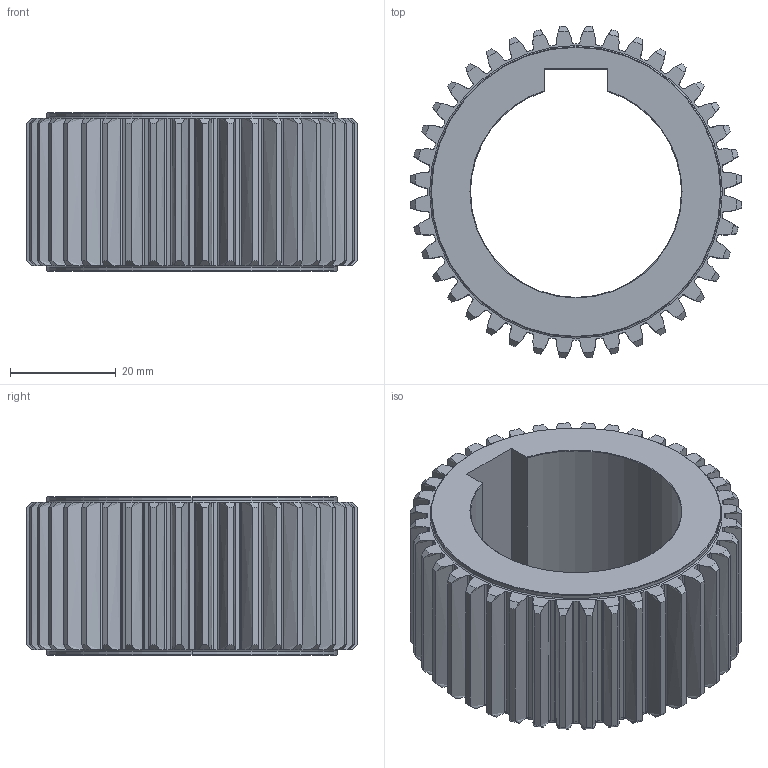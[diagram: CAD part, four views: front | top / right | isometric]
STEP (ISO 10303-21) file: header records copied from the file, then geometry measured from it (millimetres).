
FILE_DESCRIPTION (( 'STEP AP214' ), '1' );
FILE_NAME ('1SG__S015040S.STEP', '2021-08-04T06:02:46', ( '' ), ( '' ), 'SwSTEP 2.0', 'SolidWorks 2021', '' );
FILE_SCHEMA (( 'AUTOMOTIVE_DESIGN' ));
Length unit declared in the file: millimetre
Products named in the file (1): 1SG__S015040S
Bounding box: 62.88 x 62.88 x 30 mm (x, y, z)
Volume: 44217.3 mm3; surface area: 17730.7 mm2
Topology: 1 solids, 1 shells, 368 faces, 1072 edges, 708 vertices
Faces by surface type: cylinder 147, bspline 120, cone 90, plane 7, torus 4
Entity records: 21902 total; most frequent: CARTESIAN_POINT 12681, ORIENTED_EDGE 2144, DIRECTION 1710, EDGE_CURVE 1072, AXIS2_PLACEMENT_3D 713, VERTEX_POINT 708, CIRCLE 464, EDGE_LOOP 372
